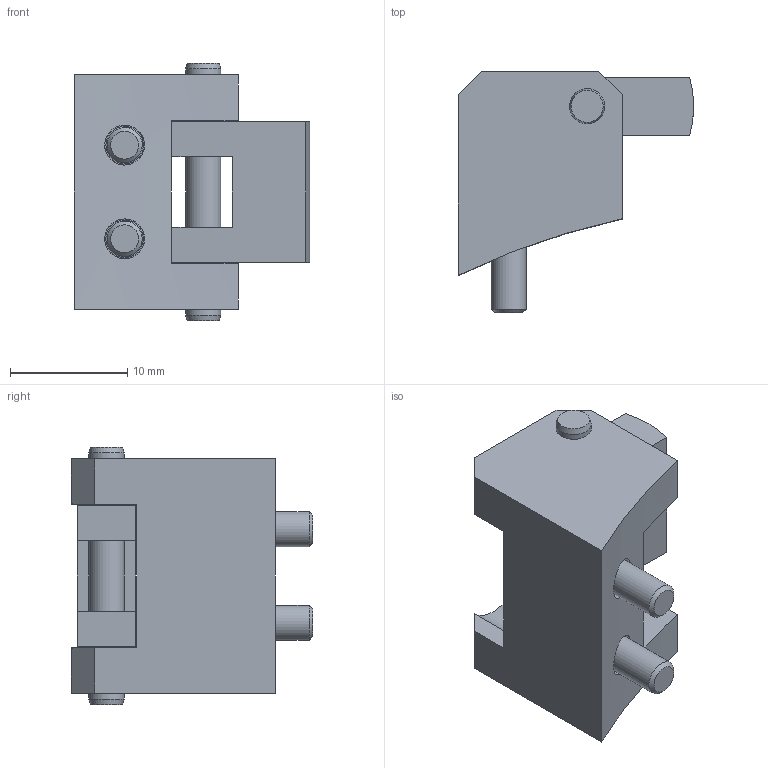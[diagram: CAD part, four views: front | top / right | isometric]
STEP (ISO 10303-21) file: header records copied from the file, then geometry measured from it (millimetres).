
FILE_DESCRIPTION(/* description */ (''),/* implementation_level */ '2;1');
FILE_NAME(/* name */ '\\dc01\daten\CAD\Standard\Daten\3D-Datenbank\SWS\4 - 3D-CAD-Daten SWS 050-160\SWS125\step-Daten\EG-SWS125-VS2.stp',/* time_stamp */ '2016-11-11T11:29:49+01:00',/* author */ ('ysplieth'),/* organization */ (''),/* preprocessor_version */ 'ST-DEVELOPER v15.2',/* originating_system */ 'Autodesk Inventor 2014',/* authorisation */ '');
FILE_SCHEMA (('AUTOMOTIVE_DESIGN { 1 0 10303 214 3 1 1 }'));
Length unit declared in the file: millimetre
Products named in the file (1): Bauteil1
Bounding box: 20.1 x 20.6 x 22 mm (x, y, z)
Volume: 3140.9 mm3; surface area: 2730.1 mm2
Topology: 1 solids, 1 shells, 73 faces, 175 edges, 114 vertices
Faces by surface type: plane 48, cylinder 15, cone 6, torus 4
Full cylindrical faces by diameter (mm): 3 x7, 3.4 x2, 5.5 x2, 6.5 x2
Entity records: 2107 total; most frequent: CARTESIAN_POINT 418, DIRECTION 322, ORIENTED_EDGE 292, EDGE_CURVE 146, AXIS2_PLACEMENT_3D 116, EDGE_LOOP 110, VERTEX_POINT 108, LINE 90
